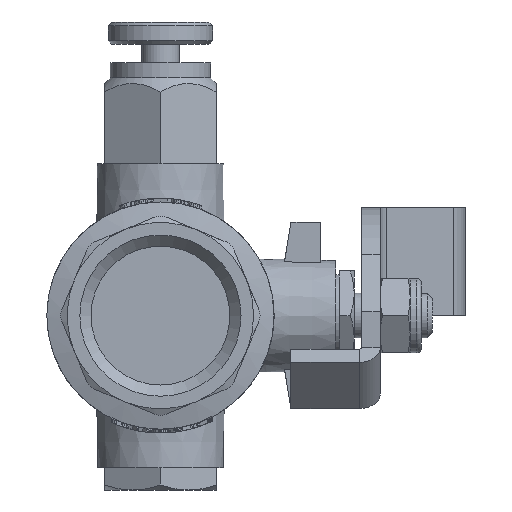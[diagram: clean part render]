
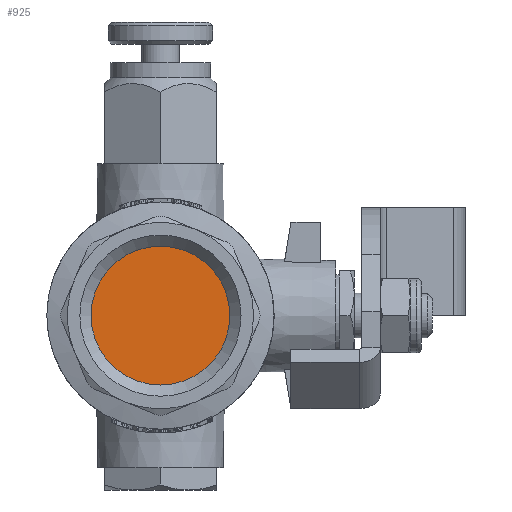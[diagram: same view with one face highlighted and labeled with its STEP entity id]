
A CAD part, front view. The second image highlights one B-rep face of the part: STEP entity #925.
In plain terms, the highlighted planar face has unit normal (0, -1, 0).
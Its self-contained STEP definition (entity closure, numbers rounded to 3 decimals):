
#925=ADVANCED_FACE('',(#6113),#6115,.F.);
#6113=FACE_BOUND('',#6114,.T.);
#6114=EDGE_LOOP('',(#11422));
#6115=PLANE('',#6116);
#6116=AXIS2_PLACEMENT_3D('',#6117,#6118,#6119);
#6117=CARTESIAN_POINT('',(0.,0.,0.));
#6118=DIRECTION('',(0.,1.,0.));
#6119=DIRECTION('',(1.,0.,0.));
#11422=ORIENTED_EDGE('',*,*,#13576,.T.);
#13576=EDGE_CURVE('',#17052,#17052,#17053,.T.);
#17052=VERTEX_POINT('',#36105);
#17053=CIRCLE('',#36106,9.316);
#36105=CARTESIAN_POINT('',(0.,0.,9.316));
#36106=AXIS2_PLACEMENT_3D('',#36107,#36108,#36109);
#36107=CARTESIAN_POINT('',(0.,0.,0.));
#36108=DIRECTION('',(0.,-1.,0.));
#36109=DIRECTION('',(0.,0.,1.));
